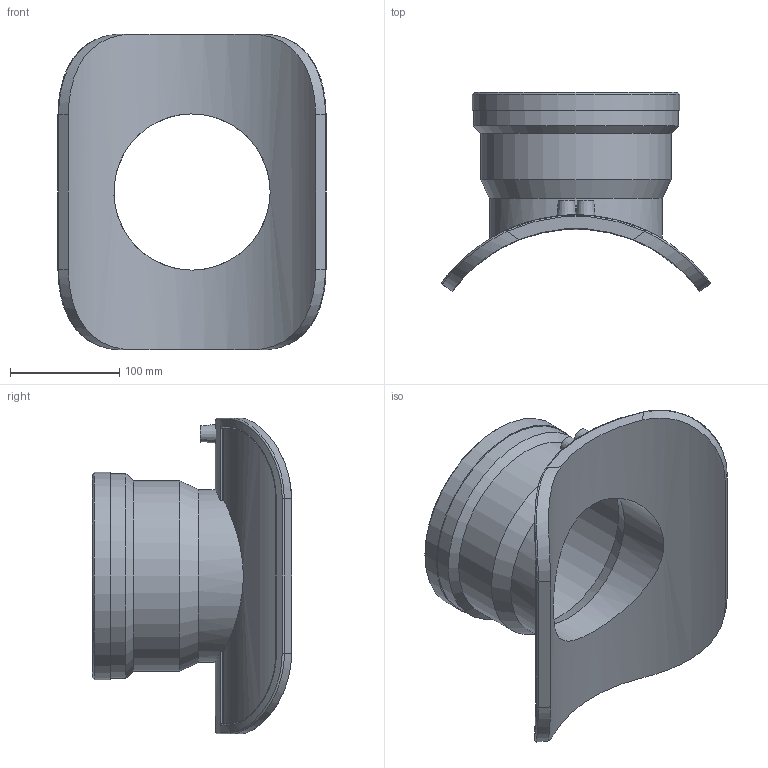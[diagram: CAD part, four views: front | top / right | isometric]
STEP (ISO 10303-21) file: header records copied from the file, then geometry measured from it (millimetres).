
FILE_DESCRIPTION(/* description */ ('PLASSON WASTEWATER SADDLE TEE 90 10''''DIPS x 6''''PSM for PVC'),/* implementation_level */ '2;1');
FILE_NAME(/* name */ 'C:\Dropbox\KIMPROJECTS-Inventor 2019\99-16-3568-Processing Inch\ASTM ElectroFusion 2021\5758BP\5758BPV4140060.ipt.stp',/* time_stamp */ '2021-08-30T09:48:21+03:00',/* author */ ('Кирилл'),/* organization */ (''),/* preprocessor_version */ 'ST-DEVELOPER v17.2',/* originating_system */ 'Autodesk Inventor 2019',/* authorisation */ '');
FILE_SCHEMA (('AUTOMOTIVE_DESIGN { 1 0 10303 214 3 1 1 }'));
Length unit declared in the file: inch
Products named in the file (1): 5758BPV4140060
Bounding box: 245.76 x 182.45 x 289.56 mm (x, y, z)
Volume: 1257862.1 mm3; surface area: 277122.7 mm2
Topology: 1 solids, 1 shells, 83 faces, 207 edges, 135 vertices
Faces by surface type: cylinder 36, plane 21, cone 12, bspline 8, torus 6
Full cylindrical faces by diameter (mm): 4 x2, 10 x2, 143.19 x1, 158.636 x1, 159.1 x3, 174.546 x1, 188.092 x1, 189.992 x1
Entity records: 3603 total; most frequent: CARTESIAN_POINT 1607, ORIENTED_EDGE 414, DIRECTION 398, EDGE_CURVE 207, AXIS2_PLACEMENT_3D 164, VERTEX_POINT 135, EDGE_LOOP 94, CIRCLE 84
